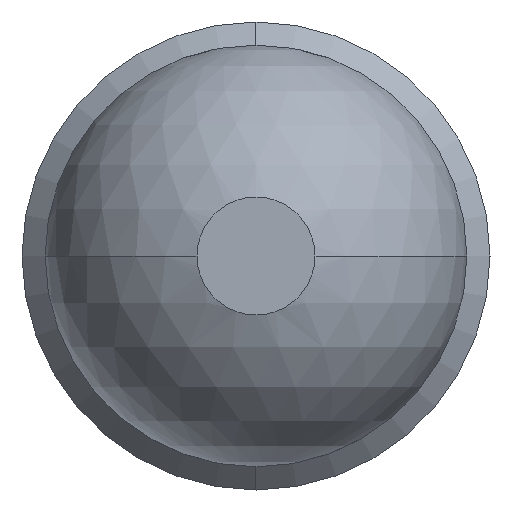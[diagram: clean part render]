
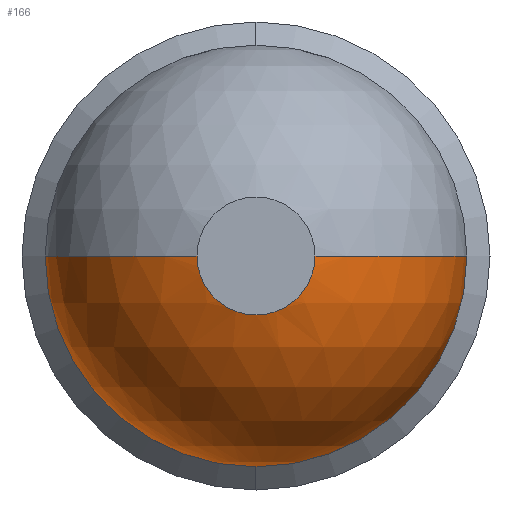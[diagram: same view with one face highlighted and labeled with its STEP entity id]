
A CAD part, left-side view. The second image highlights one B-rep face of the part: STEP entity #166.
In plain terms, the highlighted spherical face has radius 7.15 mm.
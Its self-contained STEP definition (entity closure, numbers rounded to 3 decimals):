
#11 = DIRECTION ( 'NONE',  ( 0., 1., 0. ) ) ;
#26 = CARTESIAN_POINT ( 'NONE',  ( 6.865, 0., 0. ) ) ;
#31 = AXIS2_PLACEMENT_3D ( 'NONE', #26, #338, #58 ) ;
#40 = AXIS2_PLACEMENT_3D ( 'NONE', #330, #134, #217 ) ;
#55 = CARTESIAN_POINT ( 'NONE',  ( 6.865, 7.15, 0. ) ) ;
#58 = DIRECTION ( 'NONE',  ( 0., 1., 0. ) ) ;
#66 = EDGE_CURVE ( 'NONE', #128, #91, #173, .T. ) ;
#91 = VERTEX_POINT ( 'NONE', #218 ) ;
#100 = DIRECTION ( 'NONE',  ( -1., 0., 0. ) ) ;
#107 = DIRECTION ( 'NONE',  ( 0., 0., 1. ) ) ;
#123 = EDGE_CURVE ( 'NONE', #332, #128, #318, .T. ) ;
#126 = DIRECTION ( 'NONE',  ( 0., 0., 1. ) ) ;
#128 = VERTEX_POINT ( 'NONE', #221 ) ;
#131 = CARTESIAN_POINT ( 'NONE',  ( 6.865, 0., 0. ) ) ;
#134 = DIRECTION ( 'NONE',  ( 0., 0., 1. ) ) ;
#145 = ORIENTED_EDGE ( 'NONE', *, *, #240, .F. ) ;
#154 = CIRCLE ( 'NONE', #287, 7.15 ) ;
#162 = CARTESIAN_POINT ( 'NONE',  ( 6.865, 0., 0. ) ) ;
#165 = DIRECTION ( 'NONE',  ( -1., 0., 0. ) ) ;
#166 = ADVANCED_FACE ( 'NONE', ( #329 ), #241, .T. ) ;
#173 = CIRCLE ( 'NONE', #31, 7.15 ) ;
#189 = VERTEX_POINT ( 'NONE', #278 ) ;
#199 = AXIS2_PLACEMENT_3D ( 'NONE', #335, #165, #369 ) ;
#200 = ORIENTED_EDGE ( 'NONE', *, *, #317, .T. ) ;
#210 = EDGE_LOOP ( 'NONE', ( #254, #292, #271, #145, #200 ) ) ;
#211 = AXIS2_PLACEMENT_3D ( 'NONE', #294, #100, #126 ) ;
#217 = DIRECTION ( 'NONE',  ( 1., 0., 0. ) ) ;
#218 = CARTESIAN_POINT ( 'NONE',  ( 0., -2., 0. ) ) ;
#221 = CARTESIAN_POINT ( 'NONE',  ( 6.865, -7.15, 0. ) ) ;
#240 = EDGE_CURVE ( 'NONE', #262, #189, #258, .T. ) ;
#241 = SPHERICAL_SURFACE ( 'NONE', #309, 7.15 ) ;
#254 = ORIENTED_EDGE ( 'NONE', *, *, #123, .T. ) ;
#258 = CIRCLE ( 'NONE', #40, 7.15 ) ;
#262 = VERTEX_POINT ( 'NONE', #55 ) ;
#271 = ORIENTED_EDGE ( 'NONE', *, *, #282, .F. ) ;
#273 = CARTESIAN_POINT ( 'NONE',  ( 6.865, 0., -7.15 ) ) ;
#278 = CARTESIAN_POINT ( 'NONE',  ( 0., 2., 0. ) ) ;
#282 = EDGE_CURVE ( 'NONE', #189, #91, #315, .T. ) ;
#287 = AXIS2_PLACEMENT_3D ( 'NONE', #131, #302, #107 ) ;
#292 = ORIENTED_EDGE ( 'NONE', *, *, #66, .T. ) ;
#294 = CARTESIAN_POINT ( 'NONE',  ( 0., 0., 0. ) ) ;
#302 = DIRECTION ( 'NONE',  ( -1., 0., 0. ) ) ;
#303 = DIRECTION ( 'NONE',  ( 0., 0., -1. ) ) ;
#309 = AXIS2_PLACEMENT_3D ( 'NONE', #162, #303, #11 ) ;
#315 = CIRCLE ( 'NONE', #211, 2. ) ;
#317 = EDGE_CURVE ( 'NONE', #262, #332, #154, .T. ) ;
#318 = CIRCLE ( 'NONE', #199, 7.15 ) ;
#329 = FACE_OUTER_BOUND ( 'NONE', #210, .T. ) ;
#330 = CARTESIAN_POINT ( 'NONE',  ( 6.865, 0., 0. ) ) ;
#332 = VERTEX_POINT ( 'NONE', #273 ) ;
#335 = CARTESIAN_POINT ( 'NONE',  ( 6.865, 0., 0. ) ) ;
#338 = DIRECTION ( 'NONE',  ( 0., 0., -1. ) ) ;
#369 = DIRECTION ( 'NONE',  ( 0., 0., 1. ) ) ;
